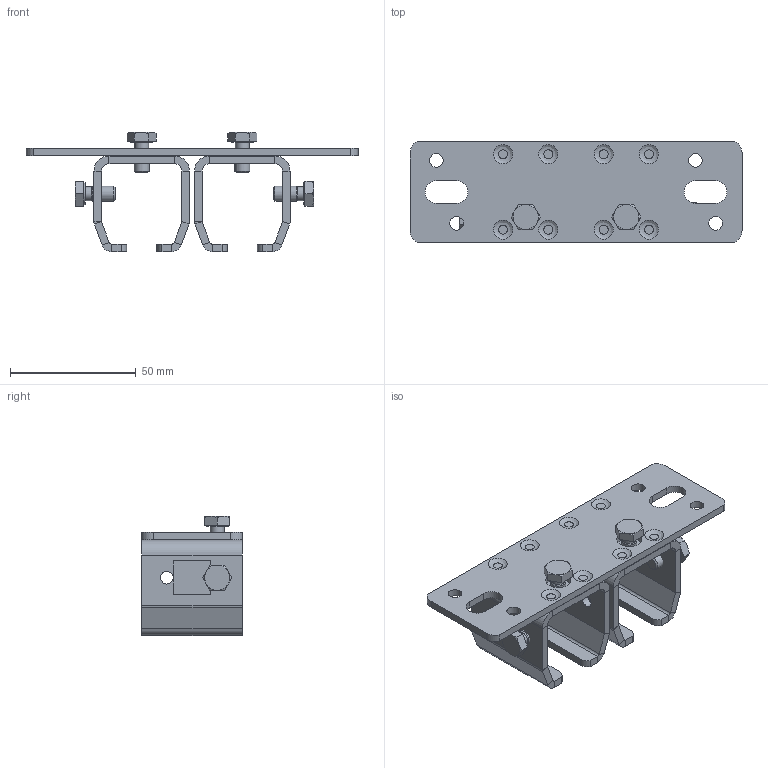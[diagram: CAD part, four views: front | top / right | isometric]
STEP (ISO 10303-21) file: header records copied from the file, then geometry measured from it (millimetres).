
FILE_DESCRIPTION(/* description */ ('Doppeldeckenbefestigung Nr.0'),/* implementation_level */ '2;1');
FILE_NAME(/* name */ 'C:\Users\avlesti\Desktop\010333038.stp',/* time_stamp */ '2021-03-29T12:13:11+02:00',/* author */ ('avlesti'),/* organization */ (''),/* preprocessor_version */ 'ST-DEVELOPER v17.2',/* originating_system */ 'Autodesk Inventor 2019',/* authorisation */ '');
FILE_SCHEMA (('AUTOMOTIVE_DESIGN { 1 0 10303 214 3 1 1 }'));
Length unit declared in the file: millimetre
Products named in the file (4): 010333038; 010333038_01; 335140000; DIN EN ISO 4017 - M6  x 12
Assembly tree (7 placements, depth 2):
  010333038
    010333038_01
    335140000  x2
    DIN EN ISO 4017 - M6  x 12  x4
Bounding box: 132 x 40 x 47.39 mm (x, y, z)
Volume: 44116.9 mm3; surface area: 33964.7 mm2
Topology: 7 solids, 7 shells, 292 faces, 672 edges, 414 vertices
Faces by surface type: plane 174, cylinder 70, cone 32, torus 8, bspline 8
Full cylindrical faces by diameter (mm): 4.917 x6, 5 x6, 5.459 x4, 5.5 x4, 6 x4, 8.7 x4, 10 x2
Entity records: 4773 total; most frequent: CARTESIAN_POINT 971, DIRECTION 813, ORIENTED_EDGE 706, EDGE_CURVE 353, AXIS2_PLACEMENT_3D 316, VERTEX_POINT 222, EDGE_LOOP 199, LINE 181
